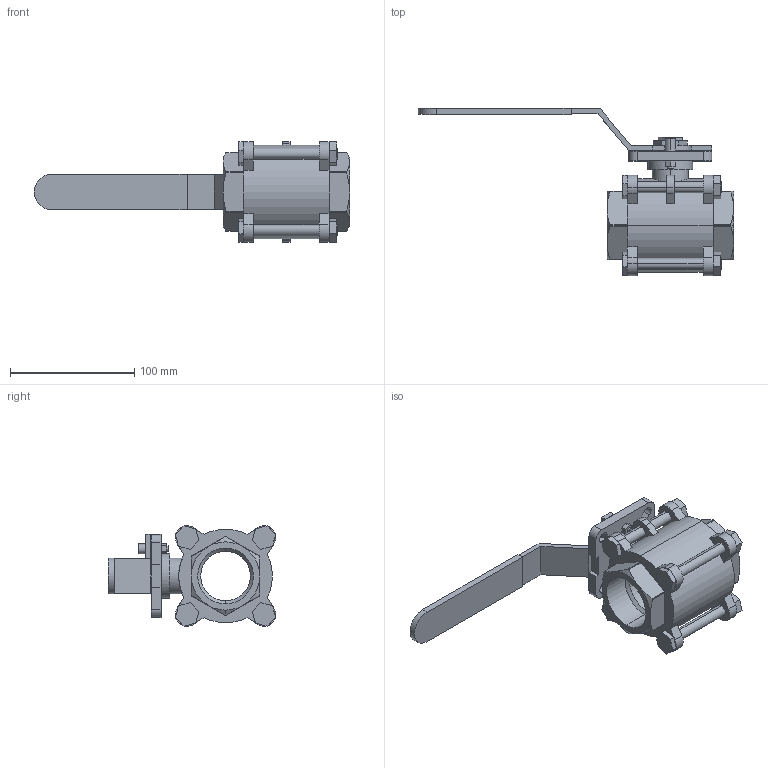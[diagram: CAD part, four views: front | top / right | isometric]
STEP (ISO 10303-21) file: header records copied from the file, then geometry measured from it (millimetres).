
FILE_DESCRIPTION (( 'STEP AP203' ), '1' );
FILE_NAME ('C3.622I040IFVPB0.STEP', '2018-10-12T14:42:33', ( '' ), ( '' ), 'SwSTEP 2.0', 'SolidWorks 2014', '' );
FILE_SCHEMA (( 'CONFIG_CONTROL_DESIGN' ));
Length unit declared in the file: millimetre
Products named in the file (1): C3.622I040IFVPB0
Bounding box: 254 x 134.93 x 80.87 mm (x, y, z)
Volume: 374198.7 mm3; surface area: 85056.5 mm2
Topology: 1 solids, 1 shells, 332 faces, 851 edges, 539 vertices
Faces by surface type: plane 231, cylinder 83, cone 18
Entity records: 10311 total; most frequent: CARTESIAN_POINT 1997, DIRECTION 1724, ORIENTED_EDGE 1702, EDGE_CURVE 851, LINE 592, VECTOR 592, AXIS2_PLACEMENT_3D 566, VERTEX_POINT 539
